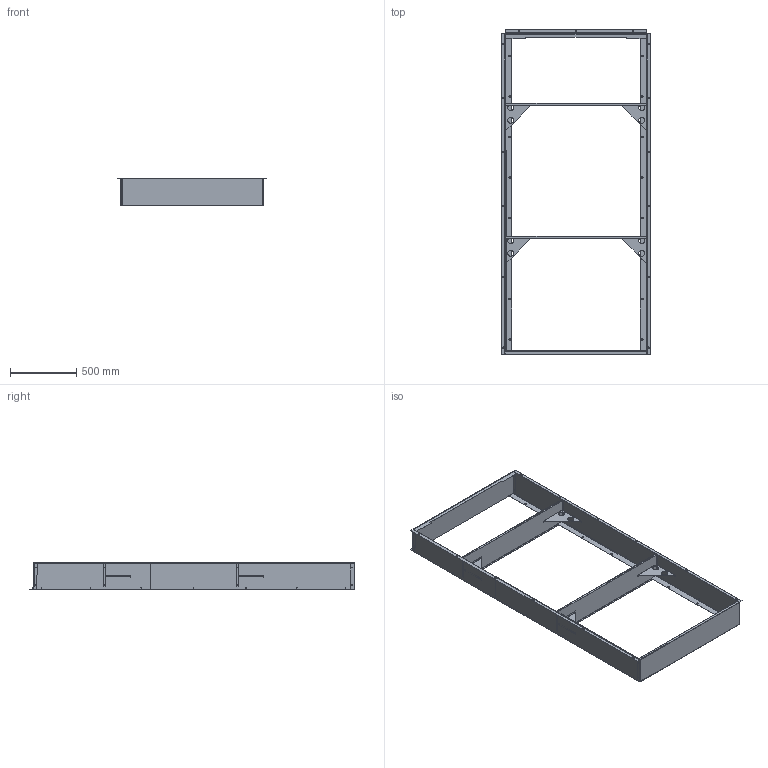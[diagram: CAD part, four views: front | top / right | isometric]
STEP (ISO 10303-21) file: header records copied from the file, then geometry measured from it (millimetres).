
FILE_DESCRIPTION (( 'STEP AP214' ), '1' );
FILE_NAME ('WWC6-X.STEP', '2016-07-15T19:59:52', ( 'BMC' ), ( 'Bard Manufacturing Co., Inc.' ), 'SwSTEP 2.0', 'SolidWorks 2016', '' );
FILE_SCHEMA (( 'AUTOMOTIVE_DESIGN' ));
Length unit declared in the file: inch
Products named in the file (13): 100-386; 507-223; 140-275; 126-307; 521-345; 120-345; 5021-0926; 106-223; 100-385; 501-386; 501-385; WWC6-X; 5021-0923
Assembly tree (16 placements, depth 3):
  WWC6-X
    126-307
    140-275  x4
    521-345  x2
      120-345
    507-223
      106-223
      5021-0926
    501-386
      100-386
    501-385
      100-385
      5021-0923
Bounding box: 1115.35 x 2445.81 x 208.91 mm (x, y, z)
Volume: 5704841.3 mm3; surface area: 6055828.3 mm2
Topology: 12 solids, 12 shells, 586 faces, 1462 edges, 900 vertices
Faces by surface type: plane 296, cylinder 290
Entity records: 13700 total; most frequent: DIRECTION 2345, CARTESIAN_POINT 2121, ORIENTED_EDGE 2082, EDGE_CURVE 1041, AXIS2_PLACEMENT_3D 870, VERTEX_POINT 646, VECTOR 605, LINE 605
